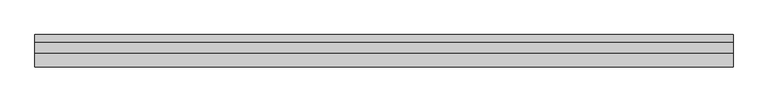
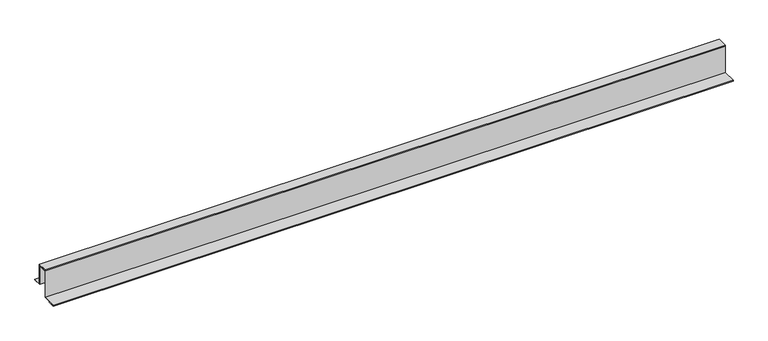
"""IFC4 building model written with IfcOpenShell, lengths in millimetres: proxy geometry, АК7_1 бок Обрамление оконного_дверного проема : АК7_1 бок Обрамление оконного_дверного проема."""

from ifc_helpers import new_model, si_unit, frame, origin, place, context, project, spatial, polyline, outline, extrude, source, transform, mapped, element, save


def generic_models_769ca0ed(model_context):
    return source(origin(), model_context, "Body", "SweptSolid", [
        extrude(outline(polyline([(-12.5, 25.0), (-12.5, -35.9999552), (10.5, -35.9999552), (10.5, -36.9999552), (-13.5, -36.9999552), (-13.5, 24.0), (-41.5, 24.0), (-41.5, 23.0), (-27.5, 23.0), (-27.5, 22.0), (-42.5, 22.0), (-42.5, 25.0), (-12.5, 25.0)])), frame((0.0, 0.0, 0.0), z_axis=(1.0, 0.0, 0.0), x_axis=(0.0, 1.0, 0.0)), (0.0, 0.0, 1.0), 1996.6231973),
        extrude(outline(polyline([(-42.5, -60.0), (-42.5, 22.0), (-17.5, 22.0), (-17.5, 21.0), (-41.5, 21.0), (-41.5, -61.0), (-81.5, -61.0), (-81.5, -62.0), (-62.5, -62.0), (-62.5, -63.0), (-82.5, -63.0), (-82.5, -60.0), (-42.5, -60.0)])), frame((0.0, 0.0, 0.0), z_axis=(1.0, 0.0, 0.0), x_axis=(0.0, 1.0, 0.0)), (0.0, 0.0, 1.0), 1996.6231973),
    ])


if __name__ == "__main__":
    model = new_model("IFC4")
    model_context = context("Model", 3, world=origin())
    ifc_project = project(units=[si_unit("LENGTHUNIT", "METRE", prefix="MILLI")], contexts=[model_context])
    site = spatial("IfcSite", under=ifc_project)
    building = spatial("IfcBuilding", under=site)
    placement = place(None, origin())
    generic_models_shape = generic_models_769ca0ed(model_context)
    element("IfcBuildingElementProxy", 1, Name="АК7_1 бок Обрамление оконного_дверного проема : АК7_1 бок Обрамление оконного_дверного проема", ObjectType="АК7_1 бок Обрамление оконного_дверного проема : АК7_1 бок Обрамление оконного_дверного проема", at=placement, inside=building, context=model_context, shape_type="MappedRepresentation", body=[
        mapped(generic_models_shape, transform((0.0, 0.0, 0.0), x_axis=(1.0, 0.0, 0.0), y_axis=(0.0, 1.0, 0.0), z_axis=(0.0, 0.0, 1.0))),
    ])
    save(model, "model.ifc")
